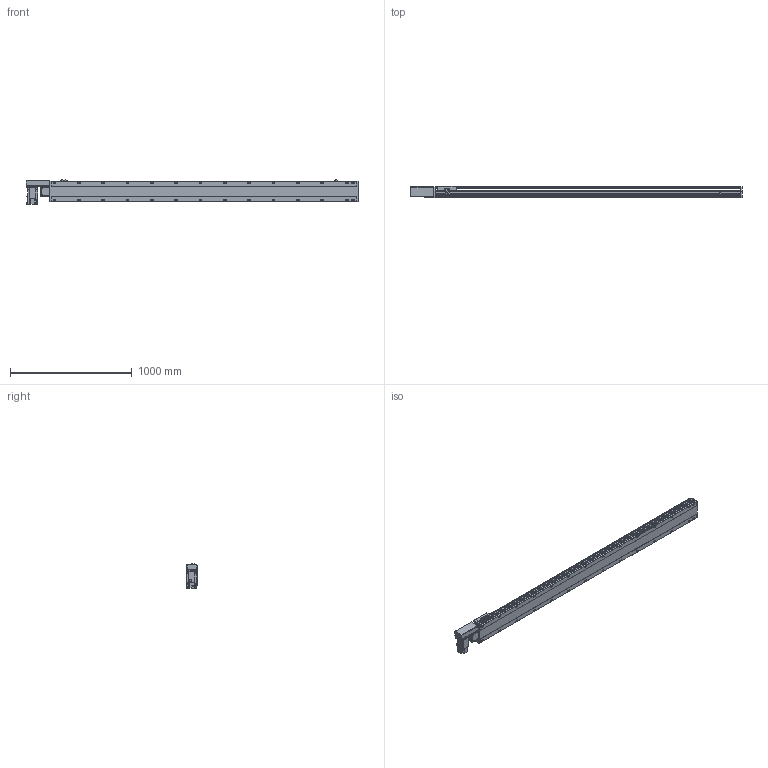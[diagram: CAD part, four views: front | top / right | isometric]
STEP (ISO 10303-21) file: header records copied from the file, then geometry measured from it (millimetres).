
FILE_DESCRIPTION( ( 'STEP AP214' ), '1' );
FILE_NAME( 'x:/temp/worker_4/temp/exporttempdir_2248_291_OJUOn/format_0/PBS170-P40-S2250-R-T75-C1-N(0).stp', '2022-06-07T07:32:00', ( 'License CC BY-ND 4.0' ), ( 'CADENAS' ), ' ', 'PARTsolutions', ' ' );
FILE_SCHEMA( ( 'AUTOMOTIVE_DESIGN { 1 0 10303 214 1 1 1 1 }' ) );
Length unit declared in the file: millimetre
Products named in the file (7): PBS170-P40-S2250-R-T75-C1-N(0); _PBS170-S2250()_body; _PBS170T-R_motors; _T75-p1; _PBS170_sliser; _PBS170_plant; _PBS170_sensor
Assembly tree (8 placements, depth 2):
  PBS170-P40-S2250-R-T75-C1-N(0)
    _PBS170-S2250()_body
    _PBS170T-R_motors
    _T75-p1
    _PBS170_sliser
    _PBS170_plant
    _PBS170_sensor  x3
Bounding box: 2728 x 97 x 205.3 mm (x, y, z)
Volume: 19894307.2 mm3; surface area: 2515826.5 mm2
Topology: 8 solids, 8 shells, 1178 faces, 3115 edges, 2030 vertices
Faces by surface type: plane 723, cylinder 387, cone 58, sphere 8, torus 2
Full cylindrical faces by diameter (mm): 3.242 x4, 4 x2, 4.4 x4, 4.5 x6, 4.917 x4, 6 x9, 6.647 x36, 7 x2, 7.5 x4, 8 x8, 8.5 x28, 10 x4, 10.5 x28, 11 x2, 30 x2, 40 x1, 70 x1
Entity records: 43592 total; most frequent: CARTESIAN_POINT 7229, DIRECTION 5720, ORIENTED_EDGE 5388, EDGE_CURVE 2694, AXIS2_PLACEMENT_3D 2017, VERTEX_POINT 1874, LINE 1686, VECTOR 1686
